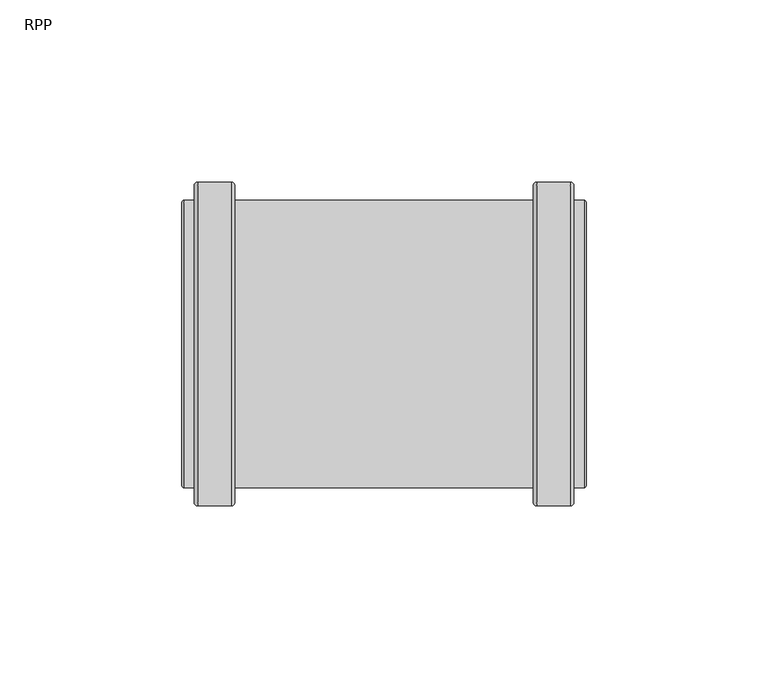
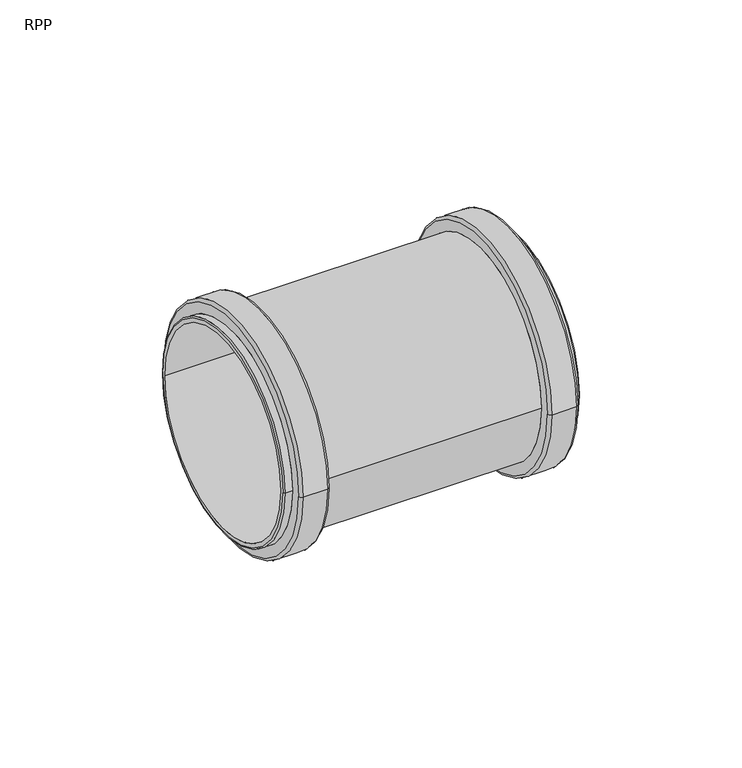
"""IFC4 building model written with IfcOpenShell, lengths in millimetres: pipe fitting geometry, RAUPIANO PLUS Double socket : RPP."""

from ifc_helpers import new_model, si_unit, point, frame, origin, place, context, project, spatial, polyline, circle_curve, ellipse_curve, trimmed, source, transform, mapped, element, save
from ifc_brep_helpers import plane_surface, cylinder_surface, revolved_surface, advanced_brep


def rpp_df02b0ba(model_context):
    return source(origin(), model_context, "Body", "AdvancedBrep", [
        advanced_brep(
        [(-51.2, 44.5, 0.0), (-51.2, -44.5, 0.0), (-52.2, -43.5, 0.0), (-52.2, 43.5, 0.0), (-42.0, 44.5, 0.0), (-42.0, -44.5, 0.0), (-41.0, 43.5, 0.0), (-41.0, -43.5, 0.0), (41.0, 39.5, 0.0), (41.0, -39.5, 0.0), (-41.0, -39.5, 0.0), (-41.0, 39.5, 0.0), (42.0, 44.5, 0.0), (42.0, -44.5, 0.0), (41.0, -43.5, 0.0), (41.0, 43.5, 0.0), (51.2, 44.5, 0.0), (51.2, -44.5, 0.0), (52.2, 43.5, 0.0), (52.2, -43.5, 0.0), (55.0, 39.5, 0.0), (55.0, -39.5, 0.0), (52.2, -39.5, 0.0), (52.2, 39.5, 0.0), (55.5, 39.0, 0.0), (55.5, -39.0, 0.0), (1.0, 37.5, 0.0), (1.0, -37.5, 0.0), (55.5, -37.5, 0.0), (55.5, 37.5, 0.0), (-1.0, 35.19828, 0.0), (-1.0, -35.19828, 0.0), (1.0, -35.19828, 0.0), (1.0, 35.19828, 0.0), (-55.5, 37.5, 0.0), (-55.5, -37.5, 0.0), (-1.0, -37.5, 0.0), (-1.0, 37.5, 0.0), (-55.0, 39.5, 0.0), (-55.0, -39.5, 0.0), (-55.5, -39.0, 0.0), (-55.5, 39.0, 0.0), (-52.2, 39.5, 0.0), (-52.2, -39.5, 0.0)],
        [
            (0, 1, circle_curve(frame((-51.2, 0.0, 0.0), z_axis=(-1.0, 0.0, 0.0), x_axis=(0.0, -1.0, 0.0)), 44.5)),
            (1, 2, circle_curve(frame((-51.2, -43.5, 0.0), z_axis=(0.0, 0.0, -1.0), x_axis=(1.0, 0.0, 0.0)), 1.0)),
            (2, 3, circle_curve(frame((-52.2, 0.0, 0.0), z_axis=(1.0, 0.0, 0.0), x_axis=(0.0, -1.0, 0.0)), 43.5)),
            (3, 0, circle_curve(frame((-51.2, 43.5, 0.0), z_axis=(0.0, 0.0, -1.0), x_axis=(1.0, 0.0, 0.0)), 1.0)),
            (4, 5, circle_curve(frame((-42.0, 0.0, 0.0), z_axis=(-1.0, 0.0, 0.0), x_axis=(0.0, -1.0, 0.0)), 44.5)),
            (5, 1),
            (0, 4),
            (6, 7, circle_curve(frame((-41.0, 0.0, 0.0), z_axis=(-1.0, 0.0, 0.0), x_axis=(0.0, -1.0, 0.0)), 43.5)),
            (7, 5, circle_curve(frame((-42.0, -43.5, 0.0), z_axis=(0.0, 0.0, -1.0), x_axis=(1.0, 0.0, 0.0)), 1.0)),
            (4, 6, circle_curve(frame((-42.0, 43.5, 0.0), z_axis=(0.0, 0.0, -1.0), x_axis=(1.0, 0.0, 0.0)), 1.0)),
            (8, 9, circle_curve(frame((41.0, 0.0, 0.0), z_axis=(-1.0, 0.0, 0.0), x_axis=(0.0, -1.0, 0.0)), 39.5)),
            (9, 10),
            (10, 11, circle_curve(frame((-41.0, 0.0, 0.0), z_axis=(1.0, 0.0, 0.0), x_axis=(0.0, -1.0, 0.0)), 39.5)),
            (11, 8),
            (12, 13, circle_curve(frame((42.0, 0.0, 0.0), z_axis=(-1.0, 0.0, 0.0), x_axis=(0.0, -1.0, 0.0)), 44.5)),
            (13, 14, circle_curve(frame((42.0, -43.5, 0.0), z_axis=(0.0, 0.0, -1.0), x_axis=(1.0, 0.0, 0.0)), 1.0)),
            (14, 15, circle_curve(frame((41.0, 0.0, 0.0), z_axis=(1.0, 0.0, 0.0), x_axis=(0.0, -1.0, 0.0)), 43.5)),
            (15, 12, circle_curve(frame((42.0, 43.5, 0.0), z_axis=(0.0, 0.0, -1.0), x_axis=(1.0, 0.0, 0.0)), 1.0)),
            (16, 17, circle_curve(frame((51.2, 0.0, 0.0), z_axis=(-1.0, 0.0, 0.0), x_axis=(0.0, -1.0, 0.0)), 44.5)),
            (17, 13),
            (12, 16),
            (18, 19, circle_curve(frame((52.2, 0.0, 0.0), z_axis=(-1.0, 0.0, 0.0), x_axis=(0.0, -1.0, 0.0)), 43.5)),
            (19, 17, circle_curve(frame((51.2, -43.5, 0.0), z_axis=(0.0, 0.0, -1.0), x_axis=(1.0, 0.0, 0.0)), 1.0)),
            (16, 18, circle_curve(frame((51.2, 43.5, 0.0), z_axis=(0.0, 0.0, -1.0), x_axis=(1.0, 0.0, 0.0)), 1.0)),
            (20, 21, circle_curve(frame((55.0, 0.0, 0.0), z_axis=(-1.0, 0.0, 0.0), x_axis=(0.0, -1.0, 0.0)), 39.5)),
            (21, 22),
            (22, 23, circle_curve(frame((52.2, 0.0, 0.0), z_axis=(1.0, 0.0, 0.0), x_axis=(0.0, -1.0, 0.0)), 39.5)),
            (23, 20),
            (24, 25, circle_curve(frame((55.5, 0.0, 0.0), z_axis=(-1.0, 0.0, 0.0), x_axis=(0.0, -1.0, 0.0)), 39.0)),
            (25, 21, circle_curve(frame((55.0, -39.0, 0.0), z_axis=(0.0, 0.0, -1.0), x_axis=(1.0, 0.0, 0.0)), 0.5)),
            (20, 24, circle_curve(frame((55.0, 39.0, 0.0), z_axis=(0.0, 0.0, -1.0), x_axis=(1.0, 0.0, 0.0)), 0.5)),
            (26, 27, circle_curve(frame((1.0, 0.0, 0.0), z_axis=(-1.0, 0.0, 0.0), x_axis=(0.0, -1.0, 0.0)), 37.5)),
            (27, 28),
            (28, 29, circle_curve(frame((55.5, 0.0, 0.0), z_axis=(1.0, 0.0, 0.0), x_axis=(0.0, -1.0, 0.0)), 37.5)),
            (29, 26),
            (30, 31, circle_curve(frame((-1.0, 0.0, 0.0), z_axis=(-1.0, 0.0, 0.0), x_axis=(0.0, -1.0, 0.0)), 35.19828)),
            (31, 32),
            (32, 33, circle_curve(frame((1.0, 0.0, 0.0), z_axis=(1.0, 0.0, 0.0), x_axis=(0.0, -1.0, 0.0)), 35.19828)),
            (33, 30),
            (34, 35, circle_curve(frame((-55.5, 0.0, 0.0), z_axis=(-1.0, 0.0, 0.0), x_axis=(0.0, -1.0, 0.0)), 37.5)),
            (35, 36),
            (36, 37, circle_curve(frame((-1.0, 0.0, 0.0), z_axis=(1.0, 0.0, 0.0), x_axis=(0.0, -1.0, 0.0)), 37.5)),
            (37, 34),
            (38, 39, circle_curve(frame((-55.0, 0.0, 0.0), z_axis=(-1.0, 0.0, 0.0), x_axis=(0.0, -1.0, 0.0)), 39.5)),
            (39, 40, circle_curve(frame((-55.0, -39.0, 0.0), z_axis=(0.0, 0.0, -1.0), x_axis=(1.0, 0.0, 0.0)), 0.5)),
            (40, 41, circle_curve(frame((-55.5, 0.0, 0.0), z_axis=(1.0, 0.0, 0.0), x_axis=(0.0, -1.0, 0.0)), 39.0)),
            (41, 38, circle_curve(frame((-55.0, 39.0, 0.0), z_axis=(0.0, 0.0, -1.0), x_axis=(1.0, 0.0, 0.0)), 0.5)),
            (42, 43, circle_curve(frame((-52.2, 0.0, 0.0), z_axis=(-1.0, 0.0, 0.0), x_axis=(0.0, -1.0, 0.0)), 39.5)),
            (43, 39),
            (38, 42),
            (2, 3, circle_curve(frame((-52.2, 0.0, 0.0), z_axis=(-1.0, 0.0, 0.0), x_axis=(0.0, 1.0, 0.0)), 43.5)),
            (42, 43, circle_curve(frame((-52.2, 0.0, 0.0), z_axis=(1.0, 0.0, 0.0), x_axis=(0.0, 1.0, 0.0)), 39.5)),
            (1, 0, circle_curve(frame((-51.2, 0.0, 0.0), z_axis=(-1.0, 0.0, 0.0), x_axis=(0.0, 1.0, 0.0)), 44.5)),
            (5, 4, circle_curve(frame((-42.0, 0.0, 0.0), z_axis=(-1.0, 0.0, 0.0), x_axis=(0.0, 1.0, 0.0)), 44.5)),
            (7, 6, circle_curve(frame((-41.0, 0.0, 0.0), z_axis=(-1.0, 0.0, 0.0), x_axis=(0.0, 1.0, 0.0)), 43.5)),
            (10, 11, circle_curve(frame((-41.0, 0.0, 0.0), z_axis=(-1.0, 0.0, 0.0), x_axis=(0.0, 1.0, 0.0)), 39.5)),
            (9, 8, circle_curve(frame((41.0, 0.0, 0.0), z_axis=(-1.0, 0.0, 0.0), x_axis=(0.0, 1.0, 0.0)), 39.5)),
            (14, 15, circle_curve(frame((41.0, 0.0, 0.0), z_axis=(-1.0, 0.0, 0.0), x_axis=(0.0, 1.0, 0.0)), 43.5)),
            (13, 12, circle_curve(frame((42.0, 0.0, 0.0), z_axis=(-1.0, 0.0, 0.0), x_axis=(0.0, 1.0, 0.0)), 44.5)),
            (17, 16, circle_curve(frame((51.2, 0.0, 0.0), z_axis=(-1.0, 0.0, 0.0), x_axis=(0.0, 1.0, 0.0)), 44.5)),
            (19, 18, circle_curve(frame((52.2, 0.0, 0.0), z_axis=(-1.0, 0.0, 0.0), x_axis=(0.0, 1.0, 0.0)), 43.5)),
            (22, 23, circle_curve(frame((52.2, 0.0, 0.0), z_axis=(-1.0, 0.0, 0.0), x_axis=(0.0, 1.0, 0.0)), 39.5)),
            (21, 20, circle_curve(frame((55.0, 0.0, 0.0), z_axis=(-1.0, 0.0, 0.0), x_axis=(0.0, 1.0, 0.0)), 39.5)),
            (25, 24, circle_curve(frame((55.5, 0.0, 0.0), z_axis=(-1.0, 0.0, 0.0), x_axis=(0.0, 1.0, 0.0)), 39.0)),
            (28, 29, circle_curve(frame((55.5, 0.0, 0.0), z_axis=(-1.0, 0.0, 0.0), x_axis=(0.0, 1.0, 0.0)), 37.5)),
            (27, 26, circle_curve(frame((1.0, 0.0, 0.0), z_axis=(-1.0, 0.0, 0.0), x_axis=(0.0, 1.0, 0.0)), 37.5)),
            (32, 33, circle_curve(frame((1.0, 0.0, 0.0), z_axis=(-1.0, 0.0, 0.0), x_axis=(0.0, 1.0, 0.0)), 35.19828)),
            (31, 30, circle_curve(frame((-1.0, 0.0, 0.0), z_axis=(-1.0, 0.0, 0.0), x_axis=(0.0, 1.0, 0.0)), 35.19828)),
            (36, 37, circle_curve(frame((-1.0, 0.0, 0.0), z_axis=(-1.0, 0.0, 0.0), x_axis=(0.0, 1.0, 0.0)), 37.5)),
            (35, 34, circle_curve(frame((-55.5, 0.0, 0.0), z_axis=(-1.0, 0.0, 0.0), x_axis=(0.0, 1.0, 0.0)), 37.5)),
            (40, 41, circle_curve(frame((-55.5, 0.0, 0.0), z_axis=(-1.0, 0.0, 0.0), x_axis=(0.0, 1.0, 0.0)), 39.0)),
            (39, 38, circle_curve(frame((-55.0, 0.0, 0.0), z_axis=(-1.0, 0.0, 0.0), x_axis=(0.0, 1.0, 0.0)), 39.5)),
        ],
        [
            revolved_surface(trimmed(ellipse_curve(frame((-51.2, -43.5, 0.0), z_axis=(0.0, 0.0, 1.0), x_axis=(1.0, 0.0, 0.0)), 1.0, 1.0), [point((-52.2, -43.5, 0.0))], [point((-51.2, -44.5, 0.0))], True, "CARTESIAN"), (0.0, 0.0, 0.0), (1.0, 0.0, 0.0)),
            cylinder_surface(frame((0.0, 0.0, 0.0), z_axis=(1.0, 0.0, 0.0), x_axis=(0.0, -1.0, 0.0)), 44.5),
            revolved_surface(trimmed(ellipse_curve(frame((-42.0, -43.5, 0.0), z_axis=(0.0, 0.0, 1.0), x_axis=(1.0, 0.0, 0.0)), 1.0, 1.0), [point((-42.0, -44.5, 0.0))], [point((-41.0, -43.5, 0.0))], True, "CARTESIAN"), (0.0, 0.0, 0.0), (1.0, 0.0, 0.0)),
            cylinder_surface(frame((0.0, 0.0, 0.0), z_axis=(1.0, 0.0, 0.0), x_axis=(0.0, -1.0, 0.0)), 39.5),
            revolved_surface(trimmed(ellipse_curve(frame((42.0, -43.5, 0.0), z_axis=(0.0, 0.0, 1.0), x_axis=(1.0, 0.0, 0.0)), 1.0, 1.0), [point((41.0, -43.5, 0.0))], [point((42.0, -44.5, 0.0))], True, "CARTESIAN"), (0.0, 0.0, 0.0), (1.0, 0.0, 0.0)),
            revolved_surface(trimmed(ellipse_curve(frame((51.2, -43.5, 0.0), z_axis=(0.0, 0.0, 1.0), x_axis=(1.0, 0.0, 0.0)), 1.0, 1.0), [point((51.2, -44.5, 0.0))], [point((52.2, -43.5, 0.0))], True, "CARTESIAN"), (0.0, 0.0, 0.0), (1.0, 0.0, 0.0)),
            revolved_surface(trimmed(ellipse_curve(frame((55.0, -39.0, 0.0), z_axis=(0.0, 0.0, 1.0), x_axis=(1.0, 0.0, 0.0)), 0.5, 0.5), [point((55.0, -39.5, 0.0))], [point((55.5, -39.0, 0.0))], True, "CARTESIAN"), (0.0, 0.0, 0.0), (1.0, 0.0, 0.0)),
            revolved_surface(polyline([(55.5, -37.5, 0.0), (1.0, -37.5, 0.0)]), (0.0, 0.0, 0.0), (1.0, 0.0, 0.0)),
            revolved_surface(polyline([(1.0, -35.19828, 0.0), (-1.0, -35.19828, 0.0)]), (0.0, 0.0, 0.0), (1.0, 0.0, 0.0)),
            revolved_surface(polyline([(-1.0, -37.5, 0.0), (-55.5, -37.5, 0.0)]), (0.0, 0.0, 0.0), (1.0, 0.0, 0.0)),
            revolved_surface(trimmed(ellipse_curve(frame((-55.0, -39.0, 0.0), z_axis=(0.0, 0.0, 1.0), x_axis=(1.0, 0.0, 0.0)), 0.5, 0.5), [point((-55.5, -39.0, 0.0))], [point((-55.0, -39.5, 0.0))], True, "CARTESIAN"), (0.0, 0.0, 0.0), (1.0, 0.0, 0.0)),
            plane_surface(frame((-52.2, 0.0, 0.0), z_axis=(-1.0, 0.0, 0.0), x_axis=(0.0, 1.0, 0.0))),
            revolved_surface(trimmed(ellipse_curve(frame((-51.2, 43.5, 0.0), z_axis=(0.0, 0.0, -1.0), x_axis=(1.0, 0.0, 0.0)), 1.0, 1.0), [point((-52.2, 43.5, 0.0))], [point((-51.2, 44.5, 0.0))], True, "CARTESIAN"), (0.0, 0.0, 0.0), (1.0, 0.0, 0.0)),
            cylinder_surface(frame((0.0, 0.0, 0.0), z_axis=(1.0, 0.0, 0.0), x_axis=(0.0, 1.0, 0.0)), 44.5),
            revolved_surface(trimmed(ellipse_curve(frame((-42.0, 43.5, 0.0), z_axis=(0.0, 0.0, -1.0), x_axis=(1.0, 0.0, 0.0)), 1.0, 1.0), [point((-42.0, 44.5, 0.0))], [point((-41.0, 43.5, 0.0))], True, "CARTESIAN"), (0.0, 0.0, 0.0), (1.0, 0.0, 0.0)),
            plane_surface(frame((-41.0, 0.0, 0.0), z_axis=(1.0, 0.0, 0.0), x_axis=(0.0, 1.0, 0.0))),
            cylinder_surface(frame((0.0, 0.0, 0.0), z_axis=(1.0, 0.0, 0.0), x_axis=(0.0, 1.0, 0.0)), 39.5),
            plane_surface(frame((41.0, 0.0, 0.0), z_axis=(-1.0, 0.0, 0.0), x_axis=(0.0, 1.0, 0.0))),
            revolved_surface(trimmed(ellipse_curve(frame((42.0, 43.5, 0.0), z_axis=(0.0, 0.0, -1.0), x_axis=(1.0, 0.0, 0.0)), 1.0, 1.0), [point((41.0, 43.5, 0.0))], [point((42.0, 44.5, 0.0))], True, "CARTESIAN"), (0.0, 0.0, 0.0), (1.0, 0.0, 0.0)),
            revolved_surface(trimmed(ellipse_curve(frame((51.2, 43.5, 0.0), z_axis=(0.0, 0.0, -1.0), x_axis=(1.0, 0.0, 0.0)), 1.0, 1.0), [point((51.2, 44.5, 0.0))], [point((52.2, 43.5, 0.0))], True, "CARTESIAN"), (0.0, 0.0, 0.0), (1.0, 0.0, 0.0)),
            plane_surface(frame((52.2, 0.0, 0.0), z_axis=(1.0, 0.0, 0.0), x_axis=(0.0, 1.0, 0.0))),
            revolved_surface(trimmed(ellipse_curve(frame((55.0, 39.0, 0.0), z_axis=(0.0, 0.0, -1.0), x_axis=(1.0, 0.0, 0.0)), 0.5, 0.5), [point((55.0, 39.5, 0.0))], [point((55.5, 39.0, 0.0))], True, "CARTESIAN"), (0.0, 0.0, 0.0), (1.0, 0.0, 0.0)),
            plane_surface(frame((55.5, 0.0, 0.0), z_axis=(1.0, 0.0, 0.0), x_axis=(0.0, 1.0, 0.0))),
            revolved_surface(polyline([(55.5, 37.5, 0.0), (1.0, 37.5, 0.0)]), (0.0, 0.0, 0.0), (1.0, 0.0, 0.0)),
            plane_surface(frame((1.0, 0.0, 0.0), z_axis=(1.0, 0.0, 0.0), x_axis=(0.0, 1.0, 0.0))),
            revolved_surface(polyline([(1.0, 35.19828, 0.0), (-1.0, 35.19828, 0.0)]), (0.0, 0.0, 0.0), (1.0, 0.0, 0.0)),
            plane_surface(frame((-1.0, 0.0, 0.0), z_axis=(-1.0, 0.0, 0.0), x_axis=(0.0, 1.0, 0.0))),
            revolved_surface(polyline([(-1.0, 37.5, 0.0), (-55.5, 37.5, 0.0)]), (0.0, 0.0, 0.0), (1.0, 0.0, 0.0)),
            plane_surface(frame((-55.5, 0.0, 0.0), z_axis=(-1.0, 0.0, 0.0), x_axis=(0.0, 1.0, 0.0))),
            revolved_surface(trimmed(ellipse_curve(frame((-55.0, 39.0, 0.0), z_axis=(0.0, 0.0, -1.0), x_axis=(1.0, 0.0, 0.0)), 0.5, 0.5), [point((-55.5, 39.0, 0.0))], [point((-55.0, 39.5, 0.0))], True, "CARTESIAN"), (0.0, 0.0, 0.0), (1.0, 0.0, 0.0)),
        ],
        [
            (0, [[1, 2, 3, 4]]),
            (1, [[5, 6, -1, 7]]),
            (2, [[8, 9, -5, 10]]),
            (3, [[11, 12, 13, 14]]),
            (4, [[15, 16, 17, 18]]),
            (1, [[19, 20, -15, 21]]),
            (5, [[22, 23, -19, 24]]),
            (3, [[25, 26, 27, 28]]),
            (6, [[29, 30, -25, 31]]),
            (7, [[32, 33, 34, 35]]),
            (8, [[36, 37, 38, 39]]),
            (9, [[40, 41, 42, 43]]),
            (10, [[44, 45, 46, 47]]),
            (3, [[48, 49, -44, 50]]),
            (11, [[51, -3], [52, -48]]),
            (12, [[53, -4, -51, -2]]),
            (13, [[54, -7, -53, -6]]),
            (14, [[55, -10, -54, -9]]),
            (15, [[-55, -8], [56, -13]]),
            (16, [[57, -14, -56, -12]]),
            (17, [[58, -17], [-57, -11]]),
            (18, [[59, -18, -58, -16]]),
            (13, [[60, -21, -59, -20]]),
            (19, [[61, -24, -60, -23]]),
            (20, [[-61, -22], [62, -27]]),
            (16, [[63, -28, -62, -26]]),
            (21, [[64, -31, -63, -30]]),
            (22, [[-64, -29], [65, -34]]),
            (23, [[66, -35, -65, -33]]),
            (24, [[-66, -32], [67, -38]]),
            (25, [[68, -39, -67, -37]]),
            (26, [[69, -42], [-68, -36]]),
            (27, [[70, -43, -69, -41]]),
            (28, [[71, -46], [-70, -40]]),
            (29, [[72, -47, -71, -45]]),
            (16, [[-52, -50, -72, -49]]),
        ],
    ),
    ])


if __name__ == "__main__":
    model = new_model("IFC4")
    model_context = context("Model", 3, world=origin())
    ifc_project = project(units=[si_unit("LENGTHUNIT", "METRE", prefix="MILLI")], contexts=[model_context])
    site = spatial("IfcSite", under=ifc_project)
    building = spatial("IfcBuilding", under=site)
    placement = place(None, origin())
    rpp_shape = rpp_df02b0ba(model_context)
    element("IfcPipeFitting", 1, ObjectType="RAUPIANO PLUS Double socket : RPP", at=placement, inside=building, context=model_context, shape_type="MappedRepresentation", body=[
        mapped(rpp_shape, transform((0.0, 0.0, 0.0), x_axis=(1.0, 0.0, 0.0), y_axis=(0.0, 1.0, 0.0), z_axis=(0.0, 0.0, 1.0))),
    ])
    save(model, "model.ifc")
